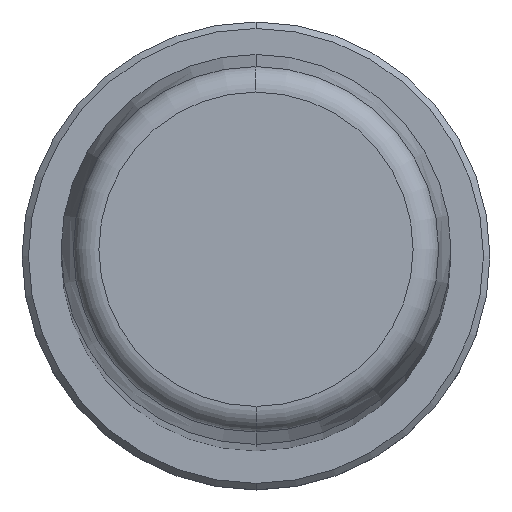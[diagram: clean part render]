
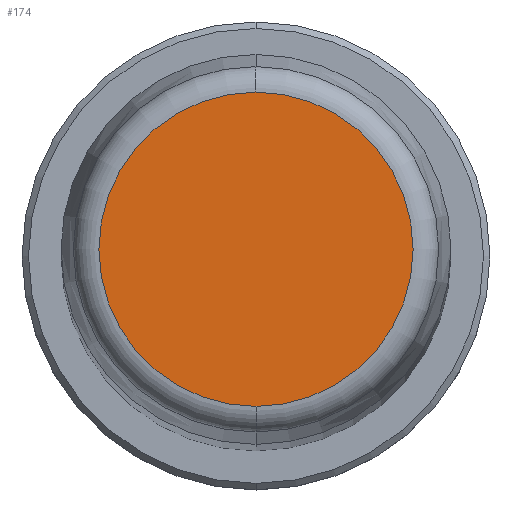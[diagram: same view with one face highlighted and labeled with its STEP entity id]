
A CAD part, top view. The second image highlights one B-rep face of the part: STEP entity #174.
In plain terms, the highlighted planar face has unit normal (0, 0, 1).
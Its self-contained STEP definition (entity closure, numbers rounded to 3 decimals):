
#1=CARTESIAN_POINT('',(0.,0.,300.));
#2=DIRECTION('',(0.,0.,-1.));
#3=DIRECTION('',(0.,-1.,0.));
#4=AXIS2_PLACEMENT_3D('',#1,#2,#3);
#6=CARTESIAN_POINT('',(0.,0.,300.));
#7=DIRECTION('',(0.,0.,-1.));
#8=DIRECTION('',(0.,1.,0.));
#9=AXIS2_PLACEMENT_3D('',#6,#7,#8);
#159=CARTESIAN_POINT('',(0.,-12.088,300.));
#160=CARTESIAN_POINT('',(0.,12.088,300.));
#161=VERTEX_POINT('',#159);
#162=VERTEX_POINT('',#160);
#163=CARTESIAN_POINT('',(0.,0.,300.));
#164=DIRECTION('',(0.,0.,1.));
#165=DIRECTION('',(0.,-1.,0.));
#166=AXIS2_PLACEMENT_3D('',#163,#164,#165);
#167=PLANE('',#166);
#169=ORIENTED_EDGE('',*,*,#168,.T.);
#171=ORIENTED_EDGE('',*,*,#170,.T.);
#172=EDGE_LOOP('',(#169,#171));
#173=FACE_OUTER_BOUND('',#172,.F.);
#174=ADVANCED_FACE('',(#173),#167,.T.);
#5=CIRCLE('',#4,12.088);
#10=CIRCLE('',#9,12.088);
#168=EDGE_CURVE('',#161,#162,#5,.T.);
#170=EDGE_CURVE('',#162,#161,#10,.T.);
